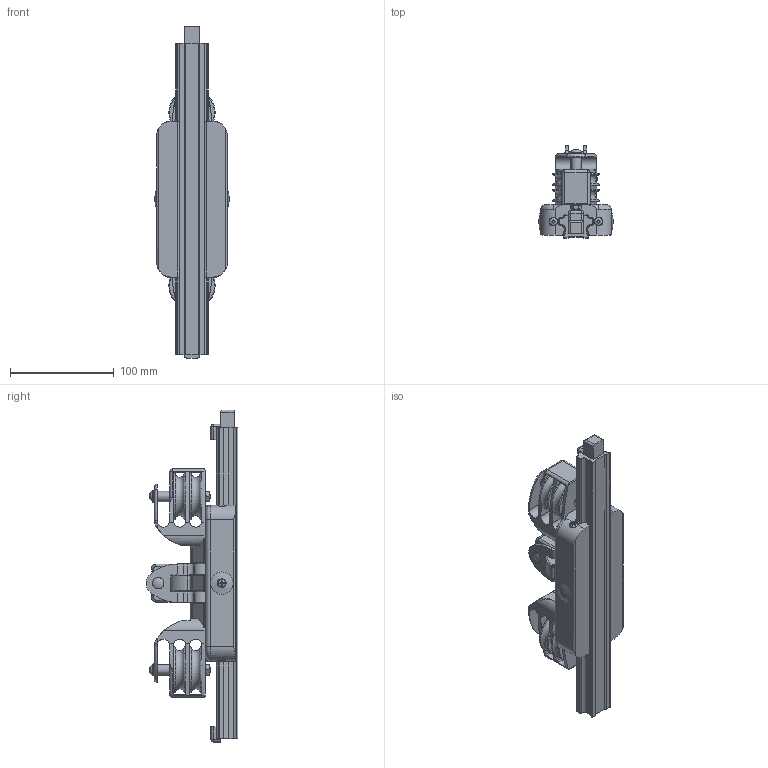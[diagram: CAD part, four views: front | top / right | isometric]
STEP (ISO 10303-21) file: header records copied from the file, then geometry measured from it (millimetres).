
FILE_DESCRIPTION(/* description */ (''),/* implementation_level */ '2;1');
FILE_NAME(/* name */ 'D:\Utenti\lucade\Desktop\4155.stp',/* time_stamp */ '2020-08-17T10:55:32+02:00',/* author */ ('lucade'),/* organization */ (''),/* preprocessor_version */ 'ST-DEVELOPER v18.1',/* originating_system */ 'Autodesk Inventor 2021',/* authorisation */ '');
FILE_SCHEMA (('AUTOMOTIVE_DESIGN { 1 0 10303 214 3 1 1 }'));
Length unit declared in the file: millimetre
Products named in the file (1): 4155
Bounding box: 71.95 x 88.45 x 319.8 mm (x, y, z)
Volume: 576922.6 mm3; surface area: 126253.5 mm2
Topology: 3 solids, 7 shells, 1022 faces, 2782 edges, 1766 vertices
Faces by surface type: plane 429, cylinder 360, torus 90, cone 64, bspline 60, sphere 19
Full cylindrical faces by diameter (mm): 3.5 x2, 3.6 x2, 5 x4, 6 x2, 6.8 x2, 8 x2, 8.2 x5, 8.4 x4, 8.5 x6, 10 x6, 10.5 x12, 11.7 x6, 17 x4, 28 x6
Entity records: 35824 total; most frequent: CARTESIAN_POINT 10077, ORIENTED_EDGE 5542, DIRECTION 5472, EDGE_CURVE 2771, AXIS2_PLACEMENT_3D 2166, VERTEX_POINT 1766, LINE 1140, VECTOR 1140
